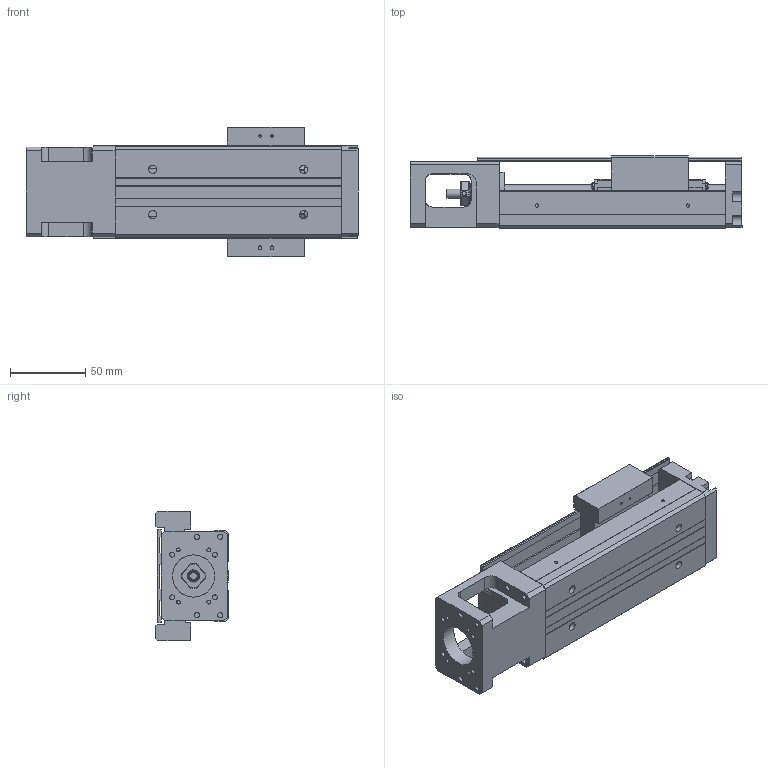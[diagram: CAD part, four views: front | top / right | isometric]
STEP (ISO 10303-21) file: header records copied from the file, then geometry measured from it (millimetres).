
FILE_DESCRIPTION(/* description */ (''),/* implementation_level */ '2;1');
FILE_NAME(/* name */ 'KP33N-150-C.stp',/* time_stamp */ '2020-06-04T13:53:25+08:00',/* author */ (''),/* organization */ (''),/* preprocessor_version */ 'ST-DEVELOPER v14',/* originating_system */ 'SIEMENS PLM Software NX 8.0',/* authorisation */ '');
FILE_SCHEMA (('AUTOMOTIVE_DESIGN { 1 0 10303 214 3 1 1 1 }'));
Length unit declared in the file: millimetre
Products named in the file (1): model1
Bounding box: 220 x 47.95 x 86 mm (x, y, z)
Volume: 389259.5 mm3; surface area: 126911.7 mm2
Topology: 7 solids, 12 shells, 684 faces, 1755 edges, 1162 vertices
Faces by surface type: plane 415, cylinder 182, bspline 31, cone 24, extrusion 21, torus 9, revolution 2
Full cylindrical faces by diameter (mm): 1.6 x4, 1.65 x4, 2.15 x2, 2.42 x4, 2.45 x8, 2.5 x10, 3 x3, 3.2 x4, 3.3 x4, 3.4 x3, 3.5 x10, 3.969 x1, 4 x6, 4.001 x1, 4.135 x4, 4.2 x4, 5.5 x4, 6 x5, 7.6 x1, 8 x5, 9.5 x4, 10.72 x3, 11.8 x2, 12 x1, 12.8 x1, 13 x2, 14 x1, 17.38 x3, 21.5 x1, 22 x2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
Entity records: 35261 total; most frequent: CARTESIAN_POINT 15586, DIRECTION 3142, ORIENTED_EDGE 3076, EDGE_CURVE 1538, VERTEX_POINT 1087, AXIS2_PLACEMENT_3D 1086, VECTOR 968, EDGE_LOOP 965
